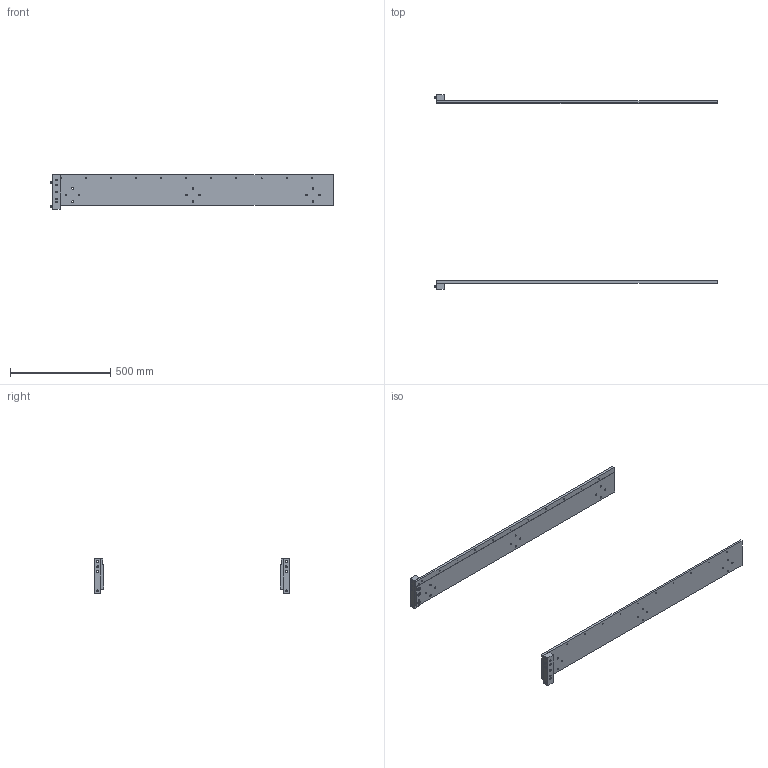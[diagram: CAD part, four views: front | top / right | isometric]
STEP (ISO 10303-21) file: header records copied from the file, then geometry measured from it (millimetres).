
FILE_DESCRIPTION(/* description */ (''),/* implementation_level */ '2;1');
FILE_NAME(/* name */ 'Piatti_rotaia_coppia_simmetrica.stp',/* time_stamp */ '2020-01-16T17:18:54+01:00',/* author */ (''),/* organization */ (''),/* preprocessor_version */ 'ST-DEVELOPER v16.7',/* originating_system */ 'SIEMENS PLM Software NX 12.0',/* authorisation */ '');
FILE_SCHEMA (('AUTOMOTIVE_DESIGN { 1 0 10303 214 3 1 1 1 }'));
Length unit declared in the file: millimetre
Products named in the file (1): bmas28EC4ACD3f83
Bounding box: 1408.5 x 972 x 170 mm (x, y, z)
Volume: 6393265.3 mm3; surface area: 1030070.1 mm2
Topology: 18 solids, 18 shells, 240 faces, 556 edges, 362 vertices
Faces by surface type: plane 106, cylinder 100, cone 28, torus 6
Full cylindrical faces by diameter (mm): 5 x22, 8 x32, 8.5 x18, 9.732 x6, 11 x10, 16 x6, 18 x6
Entity records: 6463 total; most frequent: DIRECTION 1118, CARTESIAN_POINT 993, ORIENTED_EDGE 812, EDGE_LOOP 532, AXIS2_PLACEMENT_3D 471, FACE_BOUND 452, EDGE_CURVE 406, VERTEX_POINT 346
